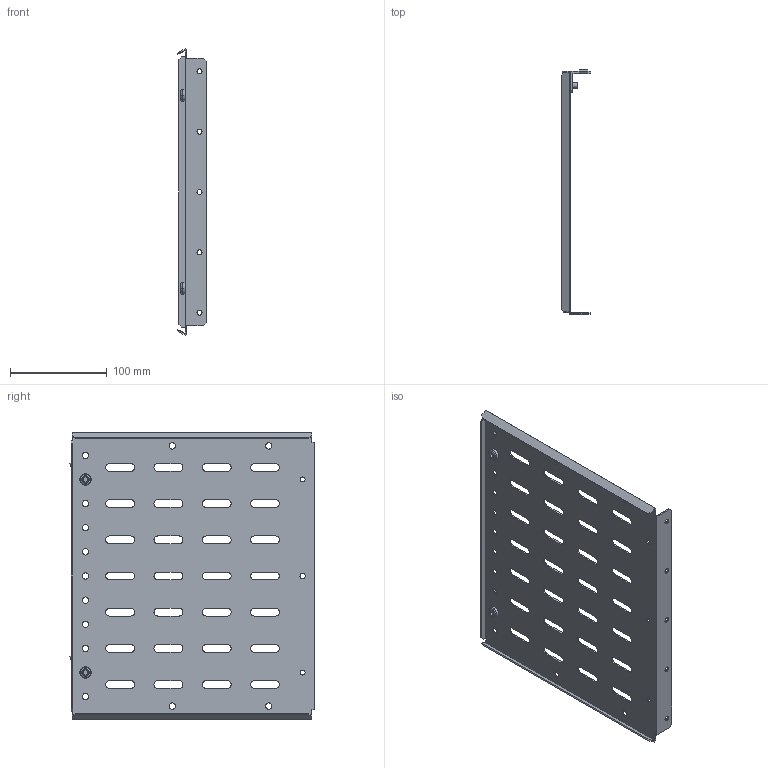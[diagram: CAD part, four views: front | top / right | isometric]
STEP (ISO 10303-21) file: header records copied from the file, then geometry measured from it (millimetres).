
FILE_DESCRIPTION (( 'STEP AP214' ), '1' );
FILE_NAME ('FO-00-SWFB-030 Ïåðåãîðîäêà ñåêöèîíèðîâàíèÿ çàäíÿÿ äëÿ âåðòèêàëüíîãî øèííîãî îòñåêà âûñîòà 300 ìì â øêàô øèðèíîé 600 ìì.STEP', '2025-09-04T11:34:06', ( '' ), ( '' ), 'SwSTEP 2.0', 'SolidWorks 2023', '' );
FILE_SCHEMA (( 'AUTOMOTIVE_DESIGN' ));
Length unit declared in the file: millimetre
Products named in the file (1): FO-00-SWFB-030 Перегородка секционирования задняя для вертикального шинного отсека высота 300 мм в шкаф шириной 600 мм
Bounding box: 30.53 x 253.25 x 297.3 mm (x, y, z)
Volume: 123868.3 mm3; surface area: 167025.5 mm2
Topology: 1 solids, 3 shells, 342 faces, 974 edges, 644 vertices
Faces by surface type: cylinder 176, plane 150, cone 8, torus 8
Entity records: 11477 total; most frequent: DIRECTION 2036, CARTESIAN_POINT 1961, ORIENTED_EDGE 1948, EDGE_CURVE 974, AXIS2_PLACEMENT_3D 719, VERTEX_POINT 644, LINE 598, VECTOR 598
